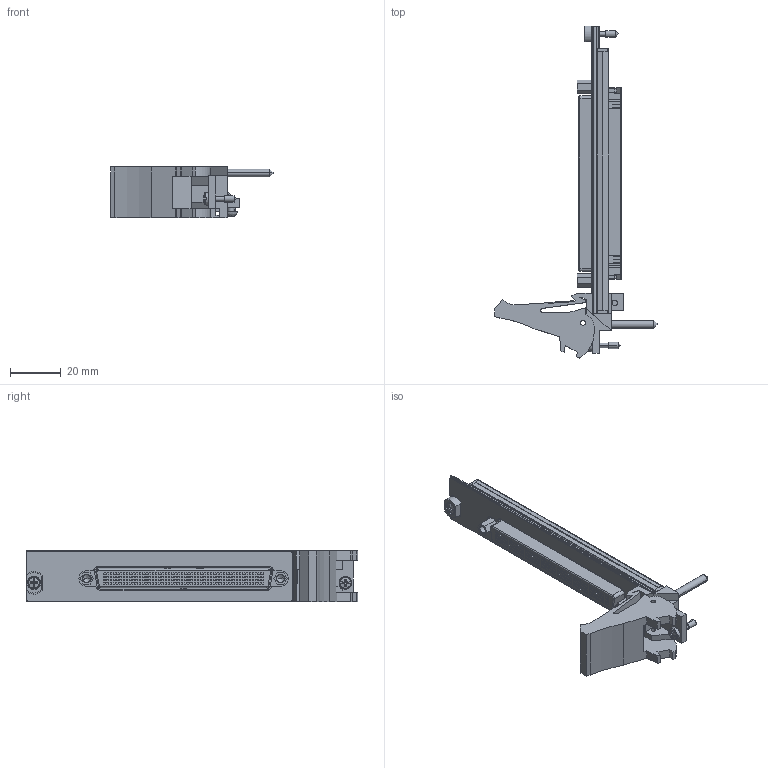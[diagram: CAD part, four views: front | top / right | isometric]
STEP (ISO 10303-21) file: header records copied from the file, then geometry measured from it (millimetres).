
FILE_DESCRIPTION((''),'2;1');
FILE_NAME('CU_PXIE-2575','2009-11-06T',('jjorden'),(''),'PRO/ENGINEER BY PARAMETRIC TECHNOLOGY CORPORATION, 2006080','PRO/ENGINEER BY PARAMETRIC TECHNOLOGY CORPORATION, 2006080','');
FILE_SCHEMA(('CONFIG_CONTROL_DESIGN'));
Products named in the file (1): CU_PXIE-2575
Bounding box: 63.73 x 130.5 x 20.31 mm (x, y, z)
Volume: 18883 mm3; surface area: 23387.7 mm2
Topology: 2 solids, 2 shells, 2356 faces, 6224 edges, 4099 vertices
Faces by surface type: plane 2176, cylinder 126, cone 30, torus 10, sphere 8, bspline 6
Entity records: 72304 total; most frequent: CARTESIAN_POINT 13544, ORIENTED_EDGE 12424, DIRECTION 11191, EDGE_CURVE 6212, VECTOR 5827, LINE 5827, VERTEX_POINT 4118, AXIS2_PLACEMENT_3D 2682
